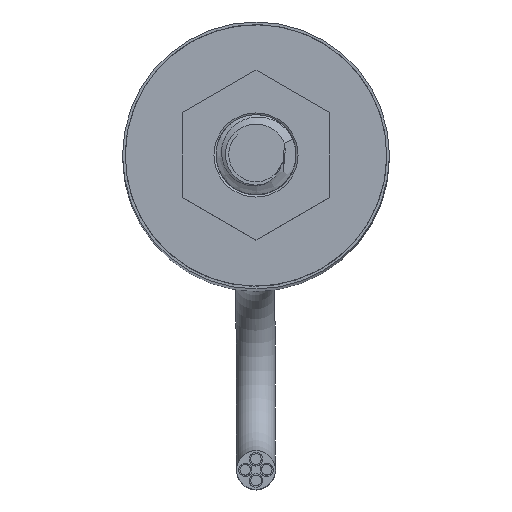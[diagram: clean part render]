
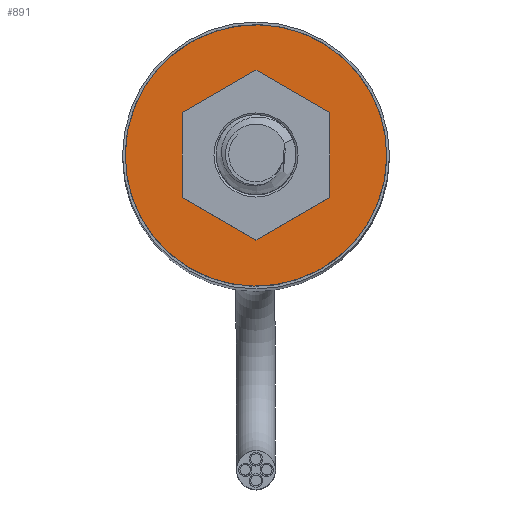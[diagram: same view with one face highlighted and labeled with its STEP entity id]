
A CAD part, top view. The second image highlights one B-rep face of the part: STEP entity #891.
In plain terms, the highlighted planar face has unit normal (0, 0, 1).
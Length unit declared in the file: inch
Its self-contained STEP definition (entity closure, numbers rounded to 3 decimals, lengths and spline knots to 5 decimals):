
#65=FACE_BOUND('',#181,.T.);
#83=PLANE('',#1126);
#118=FACE_OUTER_BOUND('',#180,.T.);
#180=EDGE_LOOP('',(#604));
#181=EDGE_LOOP('',(#605));
#352=CIRCLE('',#1121,0.11);
#355=CIRCLE('',#1125,0.245);
#402=VERTEX_POINT('',#1524);
#405=VERTEX_POINT('',#1532);
#478=EDGE_CURVE('',#402,#402,#352,.T.);
#483=EDGE_CURVE('',#405,#405,#355,.T.);
#604=ORIENTED_EDGE('',*,*,#483,.T.);
#605=ORIENTED_EDGE('',*,*,#478,.T.);
#891=ADVANCED_FACE('',(#118,#65),#83,.T.);
#1121=AXIS2_PLACEMENT_3D('',#1525,#1250,#1251);
#1125=AXIS2_PLACEMENT_3D('',#1534,#1260,#1261);
#1126=AXIS2_PLACEMENT_3D('',#1535,#1262,#1263);
#1250=DIRECTION('center_axis',(0.,0.,
-1.));
#1251=DIRECTION('ref_axis',(0.885,0.466,0.));
#1260=DIRECTION('center_axis',(0.,0.,
1.));
#1261=DIRECTION('ref_axis',(0.885,0.466,0.));
#1262=DIRECTION('center_axis',(0.,0.,
1.));
#1263=DIRECTION('ref_axis',(0.885,0.466,0.));
#1524=CARTESIAN_POINT('',(-0.09731,-0.05128,0.));
#1525=CARTESIAN_POINT('Origin',(0.,0.,
0.));
#1532=CARTESIAN_POINT('',(-0.21675,-0.11422,0.));
#1534=CARTESIAN_POINT('Origin',(0.,0.,
0.));
#1535=CARTESIAN_POINT('Origin',(0.,0.,
0.));
